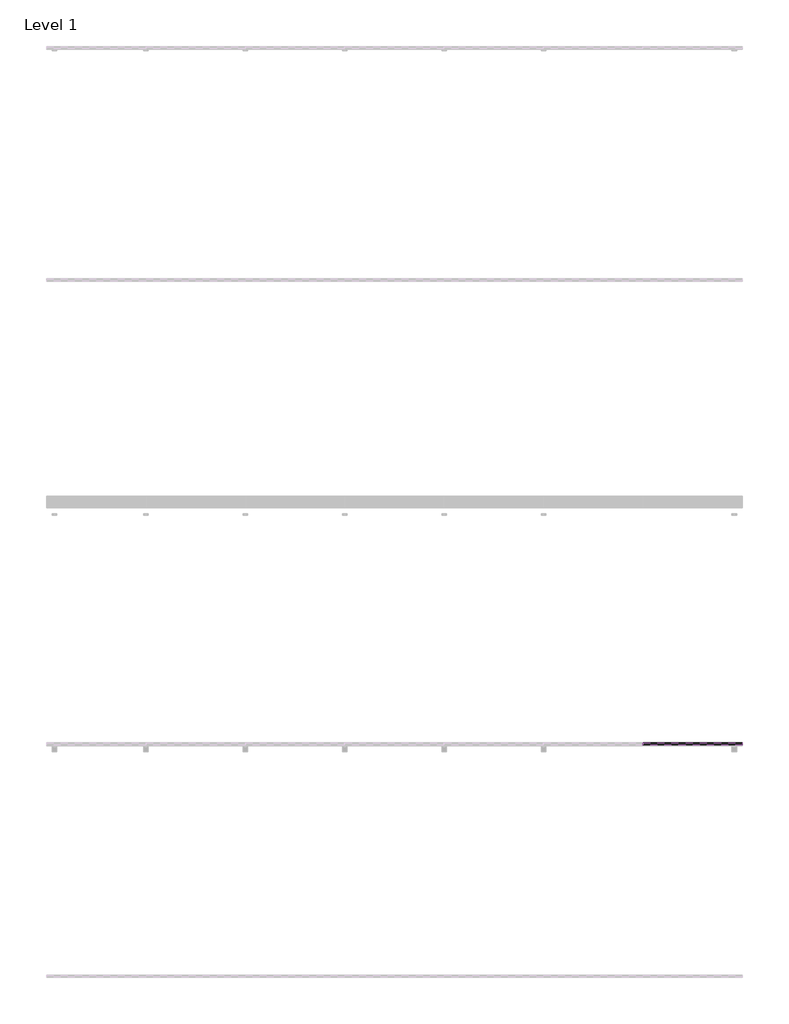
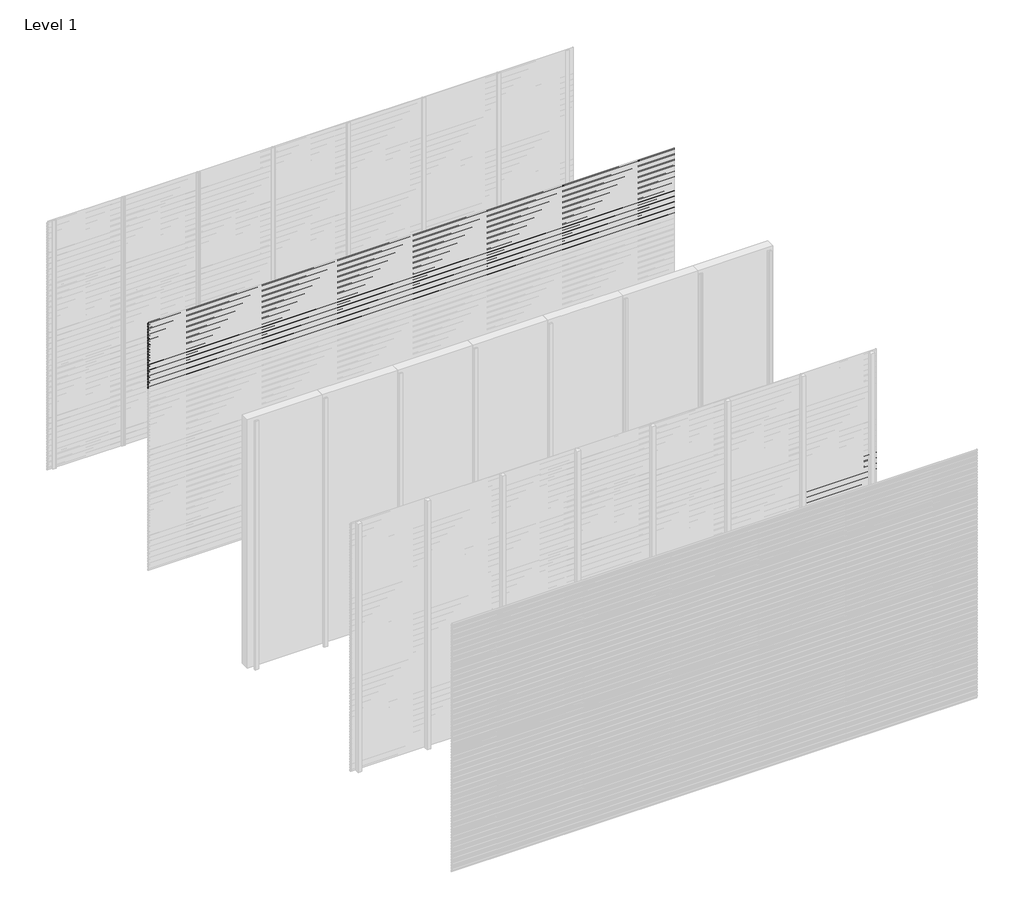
# One storey, part 50 of 96: 77 proxies.
"""IFC4 building model written with IfcOpenShell, lengths in millimetres."""

from ifc_helpers import new_model, si_unit, frame, origin, place, context, project, spatial, polyline, outline, extrude, element, save

model = new_model("IFC4")

# Units and contexts
model_context = context("Model", 3, world=origin())
ifc_project = project(units=[si_unit("LENGTHUNIT", "METRE", prefix="MILLI")], contexts=[model_context])

# Site, building, storey
site = spatial("IfcSite", under=ifc_project)
building = spatial("IfcBuilding", under=site)
storey = spatial("IfcBuildingStorey", under=building, Name="Level 1", Elevation=0.0)

# Proxies
placement = place(None, origin())
element("IfcBuildingElementProxy", 1, Name="Wall Sweeps", at=placement, inside=storey, context=model_context, shape_type="SweptSolid", body=[
    extrude(outline(polyline([(-25977.6, 2971.7655033), (-25977.6, 2957.4779188), (-25982.4114965, 2954.7), (-25982.4114965, 2955.9701706), (-25978.85, 2958.0264016), (-25978.85, 2971.0437382), (-25998.0, 2982.1000799), (-25998.0, 2997.0), (-25996.75, 2997.0), (-25996.75, 2982.8217609), (-25977.6, 2971.7655033)])), frame((0.0, 0.0, 0.0), z_axis=(1.0, 0.0, 0.0), x_axis=(0.0, 1.0, 0.0)), (0.0, 0.0, 1.0), 6000.0),
])
element("IfcBuildingElementProxy", 2, Name="Wall Sweeps", at=placement, inside=storey, context=model_context, shape_type="SweptSolid", body=[
    extrude(outline(polyline([(-25977.6, 2938.4655033), (-25977.6, 2924.1779188), (-25982.4114965, 2921.4), (-25982.4114965, 2922.6701706), (-25978.85, 2924.7264016), (-25978.85, 2937.7437382), (-25998.0, 2948.8000799), (-25998.0, 2963.7), (-25996.75, 2963.7), (-25996.75, 2949.5217609), (-25977.6, 2938.4655033)])), frame((0.0, 0.0, 0.0), z_axis=(1.0, 0.0, 0.0), x_axis=(0.0, 1.0, 0.0)), (0.0, 0.0, 1.0), 6000.0),
])
element("IfcBuildingElementProxy", 3, Name="Wall Sweeps", at=placement, inside=storey, context=model_context, shape_type="SweptSolid", body=[
    extrude(outline(polyline([(-25977.6, 2905.1655033), (-25977.6, 2890.8779188), (-25982.4114965, 2888.1), (-25982.4114965, 2889.3701706), (-25978.85, 2891.4264016), (-25978.85, 2904.4437382), (-25998.0, 2915.5000799), (-25998.0, 2930.4), (-25996.75, 2930.4), (-25996.75, 2916.2217609), (-25977.6, 2905.1655033)])), frame((0.0, 0.0, 0.0), z_axis=(1.0, 0.0, 0.0), x_axis=(0.0, 1.0, 0.0)), (0.0, 0.0, 1.0), 6000.0),
])
element("IfcBuildingElementProxy", 4, Name="Wall Sweeps", at=placement, inside=storey, context=model_context, shape_type="SweptSolid", body=[
    extrude(outline(polyline([(-25977.6, 2871.8655033), (-25977.6, 2857.5779188), (-25982.4114965, 2854.8), (-25982.4114965, 2856.0701706), (-25978.85, 2858.1264016), (-25978.85, 2871.1437382), (-25998.0, 2882.2000799), (-25998.0, 2897.1), (-25996.75, 2897.1), (-25996.75, 2882.9217609), (-25977.6, 2871.8655033)])), frame((0.0, 0.0, 0.0), z_axis=(1.0, 0.0, 0.0), x_axis=(0.0, 1.0, 0.0)), (0.0, 0.0, 1.0), 6000.0),
])
element("IfcBuildingElementProxy", 5, Name="Wall Sweeps", at=placement, inside=storey, context=model_context, shape_type="SweptSolid", body=[
    extrude(outline(polyline([(-25977.6, 2838.5655033), (-25977.6, 2824.2779188), (-25982.4114965, 2821.5), (-25982.4114965, 2822.7701706), (-25978.85, 2824.8264016), (-25978.85, 2837.8437382), (-25998.0, 2848.9000799), (-25998.0, 2863.8), (-25996.75, 2863.8), (-25996.75, 2849.6217609), (-25977.6, 2838.5655033)])), frame((0.0, 0.0, 0.0), z_axis=(1.0, 0.0, 0.0), x_axis=(0.0, 1.0, 0.0)), (0.0, 0.0, 1.0), 6000.0),
])
element("IfcBuildingElementProxy", 6, Name="Wall Sweeps", at=placement, inside=storey, context=model_context, shape_type="SweptSolid", body=[
    extrude(outline(polyline([(-25977.6, 2805.2655033), (-25977.6, 2790.9779188), (-25982.4114965, 2788.2), (-25982.4114965, 2789.4701706), (-25978.85, 2791.5264016), (-25978.85, 2804.5437382), (-25998.0, 2815.6000799), (-25998.0, 2830.5), (-25996.75, 2830.5), (-25996.75, 2816.3217609), (-25977.6, 2805.2655033)])), frame((0.0, 0.0, 0.0), z_axis=(1.0, 0.0, 0.0), x_axis=(0.0, 1.0, 0.0)), (0.0, 0.0, 1.0), 6000.0),
])
element("IfcBuildingElementProxy", 7, Name="Wall Sweeps", at=placement, inside=storey, context=model_context, shape_type="SweptSolid", body=[
    extrude(outline(polyline([(-25977.6, 2771.9655033), (-25977.6, 2757.6779188), (-25982.4114965, 2754.9), (-25982.4114965, 2756.1701706), (-25978.85, 2758.2264016), (-25978.85, 2771.2437382), (-25998.0, 2782.3000799), (-25998.0, 2797.2), (-25996.75, 2797.2), (-25996.75, 2783.0217609), (-25977.6, 2771.9655033)])), frame((0.0, 0.0, 0.0), z_axis=(1.0, 0.0, 0.0), x_axis=(0.0, 1.0, 0.0)), (0.0, 0.0, 1.0), 6000.0),
])
element("IfcBuildingElementProxy", 8, Name="Wall Sweeps", at=placement, inside=storey, context=model_context, shape_type="SweptSolid", body=[
    extrude(outline(polyline([(-25977.6, 2738.6655033), (-25977.6, 2724.3779188), (-25982.4114965, 2721.6), (-25982.4114965, 2722.8701706), (-25978.85, 2724.9264016), (-25978.85, 2737.9437382), (-25998.0, 2749.0000799), (-25998.0, 2763.9), (-25996.75, 2763.9), (-25996.75, 2749.7217609), (-25977.6, 2738.6655033)])), frame((0.0, 0.0, 0.0), z_axis=(1.0, 0.0, 0.0), x_axis=(0.0, 1.0, 0.0)), (0.0, 0.0, 1.0), 6000.0),
])
element("IfcBuildingElementProxy", 9, Name="Wall Sweeps", at=placement, inside=storey, context=model_context, shape_type="SweptSolid", body=[
    extrude(outline(polyline([(-25977.6, 2705.3655033), (-25977.6, 2691.0779188), (-25982.4114965, 2688.3), (-25982.4114965, 2689.5701706), (-25978.85, 2691.6264016), (-25978.85, 2704.6437382), (-25998.0, 2715.7000799), (-25998.0, 2730.6), (-25996.75, 2730.6), (-25996.75, 2716.4217609), (-25977.6, 2705.3655033)])), frame((0.0, 0.0, 0.0), z_axis=(1.0, 0.0, 0.0), x_axis=(0.0, 1.0, 0.0)), (0.0, 0.0, 1.0), 6000.0),
])
element("IfcBuildingElementProxy", 10, Name="Wall Sweeps", at=placement, inside=storey, context=model_context, shape_type="SweptSolid", body=[
    extrude(outline(polyline([(-25977.6, 2672.0655033), (-25977.6, 2657.7779188), (-25982.4114965, 2655.0), (-25982.4114965, 2656.2701706), (-25978.85, 2658.3264016), (-25978.85, 2671.3437382), (-25998.0, 2682.4000799), (-25998.0, 2697.3), (-25996.75, 2697.3), (-25996.75, 2683.1217609), (-25977.6, 2672.0655033)])), frame((0.0, 0.0, 0.0), z_axis=(1.0, 0.0, 0.0), x_axis=(0.0, 1.0, 0.0)), (0.0, 0.0, 1.0), 6000.0),
])
element("IfcBuildingElementProxy", 11, Name="Wall Sweeps", at=placement, inside=storey, context=model_context, shape_type="SweptSolid", body=[
    extrude(outline(polyline([(-25977.6, 2638.7655033), (-25977.6, 2624.4779188), (-25982.4114965, 2621.7), (-25982.4114965, 2622.9701706), (-25978.85, 2625.0264016), (-25978.85, 2638.0437382), (-25998.0, 2649.1000799), (-25998.0, 2664.0), (-25996.75, 2664.0), (-25996.75, 2649.8217609), (-25977.6, 2638.7655033)])), frame((0.0, 0.0, 0.0), z_axis=(1.0, 0.0, 0.0), x_axis=(0.0, 1.0, 0.0)), (0.0, 0.0, 1.0), 6000.0),
])
element("IfcBuildingElementProxy", 12, Name="Wall Sweeps", at=placement, inside=storey, context=model_context, shape_type="SweptSolid", body=[
    extrude(outline(polyline([(-25977.6, 2605.4655033), (-25977.6, 2591.1779188), (-25982.4114965, 2588.4), (-25982.4114965, 2589.6701706), (-25978.85, 2591.7264016), (-25978.85, 2604.7437382), (-25998.0, 2615.8000799), (-25998.0, 2630.7), (-25996.75, 2630.7), (-25996.75, 2616.5217609), (-25977.6, 2605.4655033)])), frame((0.0, 0.0, 0.0), z_axis=(1.0, 0.0, 0.0), x_axis=(0.0, 1.0, 0.0)), (0.0, 0.0, 1.0), 6000.0),
])
element("IfcBuildingElementProxy", 13, Name="Wall Sweeps", at=placement, inside=storey, context=model_context, shape_type="SweptSolid", body=[
    extrude(outline(polyline([(-25977.6, 2572.1655033), (-25977.6, 2557.8779188), (-25982.4114965, 2555.1), (-25982.4114965, 2556.3701706), (-25978.85, 2558.4264016), (-25978.85, 2571.4437382), (-25998.0, 2582.5000799), (-25998.0, 2597.4), (-25996.75, 2597.4), (-25996.75, 2583.2217609), (-25977.6, 2572.1655033)])), frame((0.0, 0.0, 0.0), z_axis=(1.0, 0.0, 0.0), x_axis=(0.0, 1.0, 0.0)), (0.0, 0.0, 1.0), 6000.0),
])
element("IfcBuildingElementProxy", 14, Name="Wall Sweeps", at=placement, inside=storey, context=model_context, shape_type="SweptSolid", body=[
    extrude(outline(polyline([(-25977.6, 2538.8655033), (-25977.6, 2524.5779188), (-25982.4114965, 2521.8), (-25982.4114965, 2523.0701706), (-25978.85, 2525.1264016), (-25978.85, 2538.1437382), (-25998.0, 2549.2000799), (-25998.0, 2564.1), (-25996.75, 2564.1), (-25996.75, 2549.9217609), (-25977.6, 2538.8655033)])), frame((0.0, 0.0, 0.0), z_axis=(1.0, 0.0, 0.0), x_axis=(0.0, 1.0, 0.0)), (0.0, 0.0, 1.0), 6000.0),
])
element("IfcBuildingElementProxy", 15, Name="Wall Sweeps", at=placement, inside=storey, context=model_context, shape_type="SweptSolid", body=[
    extrude(outline(polyline([(-25977.6, 2505.5655033), (-25977.6, 2491.2779188), (-25982.4114965, 2488.5), (-25982.4114965, 2489.7701706), (-25978.85, 2491.8264016), (-25978.85, 2504.8437382), (-25998.0, 2515.9000799), (-25998.0, 2530.8), (-25996.75, 2530.8), (-25996.75, 2516.6217609), (-25977.6, 2505.5655033)])), frame((0.0, 0.0, 0.0), z_axis=(1.0, 0.0, 0.0), x_axis=(0.0, 1.0, 0.0)), (0.0, 0.0, 1.0), 6000.0),
])
element("IfcBuildingElementProxy", 16, Name="Wall Sweeps", at=placement, inside=storey, context=model_context, shape_type="SweptSolid", body=[
    extrude(outline(polyline([(-25977.6, 2472.2655033), (-25977.6, 2457.9779188), (-25982.4114965, 2455.2), (-25982.4114965, 2456.4701706), (-25978.85, 2458.5264016), (-25978.85, 2471.5437382), (-25998.0, 2482.6000799), (-25998.0, 2497.5), (-25996.75, 2497.5), (-25996.75, 2483.3217609), (-25977.6, 2472.2655033)])), frame((0.0, 0.0, 0.0), z_axis=(1.0, 0.0, 0.0), x_axis=(0.0, 1.0, 0.0)), (0.0, 0.0, 1.0), 6000.0),
])
element("IfcBuildingElementProxy", 17, Name="Wall Sweeps", at=placement, inside=storey, context=model_context, shape_type="SweptSolid", body=[
    extrude(outline(polyline([(-25977.6, 2438.9655033), (-25977.6, 2424.6779188), (-25982.4114965, 2421.9), (-25982.4114965, 2423.1701706), (-25978.85, 2425.2264016), (-25978.85, 2438.2437382), (-25998.0, 2449.3000799), (-25998.0, 2464.2), (-25996.75, 2464.2), (-25996.75, 2450.0217609), (-25977.6, 2438.9655033)])), frame((0.0, 0.0, 0.0), z_axis=(1.0, 0.0, 0.0), x_axis=(0.0, 1.0, 0.0)), (0.0, 0.0, 1.0), 6000.0),
])
element("IfcBuildingElementProxy", 18, Name="Wall Sweeps", at=placement, inside=storey, context=model_context, shape_type="SweptSolid", body=[
    extrude(outline(polyline([(-25977.6, 2405.6655033), (-25977.6, 2391.3779188), (-25982.4114965, 2388.6), (-25982.4114965, 2389.8701706), (-25978.85, 2391.9264016), (-25978.85, 2404.9437382), (-25998.0, 2416.0000799), (-25998.0, 2430.9), (-25996.75, 2430.9), (-25996.75, 2416.7217609), (-25977.6, 2405.6655033)])), frame((0.0, 0.0, 0.0), z_axis=(1.0, 0.0, 0.0), x_axis=(0.0, 1.0, 0.0)), (0.0, 0.0, 1.0), 6000.0),
])
element("IfcBuildingElementProxy", 19, Name="Wall Sweeps", at=placement, inside=storey, context=model_context, shape_type="SweptSolid", body=[
    extrude(outline(polyline([(-25977.6, 2372.3655033), (-25977.6, 2358.0779188), (-25982.4114965, 2355.3), (-25982.4114965, 2356.5701706), (-25978.85, 2358.6264016), (-25978.85, 2371.6437382), (-25998.0, 2382.7000799), (-25998.0, 2397.6), (-25996.75, 2397.6), (-25996.75, 2383.4217609), (-25977.6, 2372.3655033)])), frame((0.0, 0.0, 0.0), z_axis=(1.0, 0.0, 0.0), x_axis=(0.0, 1.0, 0.0)), (0.0, 0.0, 1.0), 6000.0),
])
element("IfcBuildingElementProxy", 20, Name="Wall Sweeps", at=placement, inside=storey, context=model_context, shape_type="SweptSolid", body=[
    extrude(outline(polyline([(-25977.6, 2339.0655033), (-25977.6, 2324.7779188), (-25982.4114965, 2322.0), (-25982.4114965, 2323.2701706), (-25978.85, 2325.3264016), (-25978.85, 2338.3437382), (-25998.0, 2349.4000799), (-25998.0, 2364.3), (-25996.75, 2364.3), (-25996.75, 2350.1217609), (-25977.6, 2339.0655033)])), frame((0.0, 0.0, 0.0), z_axis=(1.0, 0.0, 0.0), x_axis=(0.0, 1.0, 0.0)), (0.0, 0.0, 1.0), 6000.0),
])
element("IfcBuildingElementProxy", 21, Name="Wall Sweeps", at=placement, inside=storey, context=model_context, shape_type="SweptSolid", body=[
    extrude(outline(polyline([(-25977.6, 2305.7655033), (-25977.6, 2291.4779188), (-25982.4114965, 2288.7), (-25982.4114965, 2289.9701706), (-25978.85, 2292.0264016), (-25978.85, 2305.0437382), (-25998.0, 2316.1000799), (-25998.0, 2331.0), (-25996.75, 2331.0), (-25996.75, 2316.8217609), (-25977.6, 2305.7655033)])), frame((0.0, 0.0, 0.0), z_axis=(1.0, 0.0, 0.0), x_axis=(0.0, 1.0, 0.0)), (0.0, 0.0, 1.0), 6000.0),
])
element("IfcBuildingElementProxy", 22, Name="Wall Sweeps", at=placement, inside=storey, context=model_context, shape_type="SweptSolid", body=[
    extrude(outline(polyline([(-25977.6, 2272.4655033), (-25977.6, 2258.1779188), (-25982.4114965, 2255.4), (-25982.4114965, 2256.6701706), (-25978.85, 2258.7264016), (-25978.85, 2271.7437382), (-25998.0, 2282.8000799), (-25998.0, 2297.7), (-25996.75, 2297.7), (-25996.75, 2283.5217609), (-25977.6, 2272.4655033)])), frame((0.0, 0.0, 0.0), z_axis=(1.0, 0.0, 0.0), x_axis=(0.0, 1.0, 0.0)), (0.0, 0.0, 1.0), 6000.0),
])
element("IfcBuildingElementProxy", 23, Name="Wall Sweeps", at=placement, inside=storey, context=model_context, shape_type="SweptSolid", body=[
    extrude(outline(polyline([(-25977.6, 2239.1655033), (-25977.6, 2224.8779188), (-25982.4114965, 2222.1), (-25982.4114965, 2223.3701706), (-25978.85, 2225.4264016), (-25978.85, 2238.4437382), (-25998.0, 2249.5000799), (-25998.0, 2264.4), (-25996.75, 2264.4), (-25996.75, 2250.2217609), (-25977.6, 2239.1655033)])), frame((0.0, 0.0, 0.0), z_axis=(1.0, 0.0, 0.0), x_axis=(0.0, 1.0, 0.0)), (0.0, 0.0, 1.0), 6000.0),
])
element("IfcBuildingElementProxy", 24, Name="Wall Sweeps", at=placement, inside=storey, context=model_context, shape_type="SweptSolid", body=[
    extrude(outline(polyline([(-25977.6, 2205.8655033), (-25977.6, 2191.5779188), (-25982.4114965, 2188.8), (-25982.4114965, 2190.0701706), (-25978.85, 2192.1264016), (-25978.85, 2205.1437382), (-25998.0, 2216.2000799), (-25998.0, 2231.1), (-25996.75, 2231.1), (-25996.75, 2216.9217609), (-25977.6, 2205.8655033)])), frame((0.0, 0.0, 0.0), z_axis=(1.0, 0.0, 0.0), x_axis=(0.0, 1.0, 0.0)), (0.0, 0.0, 1.0), 6000.0),
])
element("IfcBuildingElementProxy", 25, Name="Wall Sweeps", at=placement, inside=storey, context=model_context, shape_type="SweptSolid", body=[
    extrude(outline(polyline([(-29977.6, 1739.6655033), (-29977.6, 1725.3779188), (-29982.4114965, 1722.6), (-29982.4114965, 1723.8701706), (-29978.85, 1725.9264016), (-29978.85, 1738.9437382), (-29998.0, 1750.0000799), (-29998.0, 1764.9), (-29996.75, 1764.9), (-29996.75, 1750.7217609), (-29977.6, 1739.6655033)])), frame((5142.8571429, 0.0, 0.0), z_axis=(1.0, 0.0, 0.0), x_axis=(0.0, 1.0, 0.0)), (0.0, 0.0, 1.0), 857.1428571),
])
element("IfcBuildingElementProxy", 26, Name="Wall Sweeps", at=placement, inside=storey, context=model_context, shape_type="SweptSolid", body=[
    extrude(outline(polyline([(-29977.6, 1706.3655033), (-29977.6, 1692.0779188), (-29982.4114965, 1689.3), (-29982.4114965, 1690.5701706), (-29978.85, 1692.6264016), (-29978.85, 1705.6437382), (-29998.0, 1716.7000799), (-29998.0, 1731.6), (-29996.75, 1731.6), (-29996.75, 1717.4217609), (-29977.6, 1706.3655033)])), frame((5142.8571429, 0.0, 0.0), z_axis=(1.0, 0.0, 0.0), x_axis=(0.0, 1.0, 0.0)), (0.0, 0.0, 1.0), 857.1428571),
])
element("IfcBuildingElementProxy", 27, Name="Wall Sweeps", at=placement, inside=storey, context=model_context, shape_type="SweptSolid", body=[
    extrude(outline(polyline([(-29977.6, 1673.0655033), (-29977.6, 1658.7779188), (-29982.4114965, 1656.0), (-29982.4114965, 1657.2701706), (-29978.85, 1659.3264016), (-29978.85, 1672.3437382), (-29998.0, 1683.4000799), (-29998.0, 1698.3), (-29996.75, 1698.3), (-29996.75, 1684.1217609), (-29977.6, 1673.0655033)])), frame((5142.8571429, 0.0, 0.0), z_axis=(1.0, 0.0, 0.0), x_axis=(0.0, 1.0, 0.0)), (0.0, 0.0, 1.0), 857.1428571),
])
element("IfcBuildingElementProxy", 28, Name="Wall Sweeps", at=placement, inside=storey, context=model_context, shape_type="SweptSolid", body=[
    extrude(outline(polyline([(-29977.6, 1639.7655033), (-29977.6, 1625.4779188), (-29982.4114965, 1622.7), (-29982.4114965, 1623.9701706), (-29978.85, 1626.0264016), (-29978.85, 1639.0437382), (-29998.0, 1650.1000799), (-29998.0, 1665.0), (-29996.75, 1665.0), (-29996.75, 1650.8217609), (-29977.6, 1639.7655033)])), frame((5142.8571429, 0.0, 0.0), z_axis=(1.0, 0.0, 0.0), x_axis=(0.0, 1.0, 0.0)), (0.0, 0.0, 1.0), 857.1428571),
])
element("IfcBuildingElementProxy", 29, Name="Wall Sweeps", at=placement, inside=storey, context=model_context, shape_type="SweptSolid", body=[
    extrude(outline(polyline([(-29977.6, 1606.4655033), (-29977.6, 1592.1779188), (-29982.4114965, 1589.4), (-29982.4114965, 1590.6701706), (-29978.85, 1592.7264016), (-29978.85, 1605.7437382), (-29998.0, 1616.8000799), (-29998.0, 1631.7), (-29996.75, 1631.7), (-29996.75, 1617.5217609), (-29977.6, 1606.4655033)])), frame((5142.8571429, 0.0, 0.0), z_axis=(1.0, 0.0, 0.0), x_axis=(0.0, 1.0, 0.0)), (0.0, 0.0, 1.0), 857.1428571),
])
element("IfcBuildingElementProxy", 30, Name="Wall Sweeps", at=placement, inside=storey, context=model_context, shape_type="SweptSolid", body=[
    extrude(outline(polyline([(-29977.6, 1573.1655033), (-29977.6, 1558.8779188), (-29982.4114965, 1556.1), (-29982.4114965, 1557.3701706), (-29978.85, 1559.4264016), (-29978.85, 1572.4437382), (-29998.0, 1583.5000799), (-29998.0, 1598.4), (-29996.75, 1598.4), (-29996.75, 1584.2217609), (-29977.6, 1573.1655033)])), frame((5142.8571429, 0.0, 0.0), z_axis=(1.0, 0.0, 0.0), x_axis=(0.0, 1.0, 0.0)), (0.0, 0.0, 1.0), 857.1428571),
])
element("IfcBuildingElementProxy", 31, Name="Wall Sweeps", at=placement, inside=storey, context=model_context, shape_type="SweptSolid", body=[
    extrude(outline(polyline([(-29977.6, 1539.8655033), (-29977.6, 1525.5779188), (-29982.4114965, 1522.8), (-29982.4114965, 1524.0701706), (-29978.85, 1526.1264016), (-29978.85, 1539.1437382), (-29998.0, 1550.2000799), (-29998.0, 1565.1), (-29996.75, 1565.1), (-29996.75, 1550.9217609), (-29977.6, 1539.8655033)])), frame((5142.8571429, 0.0, 0.0), z_axis=(1.0, 0.0, 0.0), x_axis=(0.0, 1.0, 0.0)), (0.0, 0.0, 1.0), 857.1428571),
])
element("IfcBuildingElementProxy", 32, Name="Wall Sweeps", at=placement, inside=storey, context=model_context, shape_type="SweptSolid", body=[
    extrude(outline(polyline([(-29977.6, 1506.5655033), (-29977.6, 1492.2779188), (-29982.4114965, 1489.5), (-29982.4114965, 1490.7701706), (-29978.85, 1492.8264016), (-29978.85, 1505.8437382), (-29998.0, 1516.9000799), (-29998.0, 1531.8), (-29996.75, 1531.8), (-29996.75, 1517.6217609), (-29977.6, 1506.5655033)])), frame((5142.8571429, 0.0, 0.0), z_axis=(1.0, 0.0, 0.0), x_axis=(0.0, 1.0, 0.0)), (0.0, 0.0, 1.0), 857.1428571),
])
element("IfcBuildingElementProxy", 33, Name="Wall Sweeps", at=placement, inside=storey, context=model_context, shape_type="SweptSolid", body=[
    extrude(outline(polyline([(-29977.6, 1473.2655033), (-29977.6, 1458.9779188), (-29982.4114965, 1456.2), (-29982.4114965, 1457.4701706), (-29978.85, 1459.5264016), (-29978.85, 1472.5437382), (-29998.0, 1483.6000799), (-29998.0, 1498.5), (-29996.75, 1498.5), (-29996.75, 1484.3217609), (-29977.6, 1473.2655033)])), frame((5142.8571429, 0.0, 0.0), z_axis=(1.0, 0.0, 0.0), x_axis=(0.0, 1.0, 0.0)), (0.0, 0.0, 1.0), 857.1428571),
])
element("IfcBuildingElementProxy", 34, Name="Wall Sweeps", at=placement, inside=storey, context=model_context, shape_type="SweptSolid", body=[
    extrude(outline(polyline([(-29977.6, 1439.9655033), (-29977.6, 1425.6779188), (-29982.4114965, 1422.9), (-29982.4114965, 1424.1701706), (-29978.85, 1426.2264016), (-29978.85, 1439.2437382), (-29998.0, 1450.3000799), (-29998.0, 1465.2), (-29996.75, 1465.2), (-29996.75, 1451.0217609), (-29977.6, 1439.9655033)])), frame((5142.8571429, 0.0, 0.0), z_axis=(1.0, 0.0, 0.0), x_axis=(0.0, 1.0, 0.0)), (0.0, 0.0, 1.0), 857.1428571),
])
element("IfcBuildingElementProxy", 35, Name="Wall Sweeps", at=placement, inside=storey, context=model_context, shape_type="SweptSolid", body=[
    extrude(outline(polyline([(-29977.6, 1406.6655033), (-29977.6, 1392.3779188), (-29982.4114965, 1389.6), (-29982.4114965, 1390.8701706), (-29978.85, 1392.9264016), (-29978.85, 1405.9437382), (-29998.0, 1417.0000799), (-29998.0, 1431.9), (-29996.75, 1431.9), (-29996.75, 1417.7217609), (-29977.6, 1406.6655033)])), frame((5142.8571429, 0.0, 0.0), z_axis=(1.0, 0.0, 0.0), x_axis=(0.0, 1.0, 0.0)), (0.0, 0.0, 1.0), 857.1428571),
])
element("IfcBuildingElementProxy", 36, Name="Wall Sweeps", at=placement, inside=storey, context=model_context, shape_type="SweptSolid", body=[
    extrude(outline(polyline([(-29977.6, 1373.3655033), (-29977.6, 1359.0779188), (-29982.4114965, 1356.3), (-29982.4114965, 1357.5701706), (-29978.85, 1359.6264016), (-29978.85, 1372.6437382), (-29998.0, 1383.7000799), (-29998.0, 1398.6), (-29996.75, 1398.6), (-29996.75, 1384.4217609), (-29977.6, 1373.3655033)])), frame((5142.8571429, 0.0, 0.0), z_axis=(1.0, 0.0, 0.0), x_axis=(0.0, 1.0, 0.0)), (0.0, 0.0, 1.0), 857.1428571),
])
element("IfcBuildingElementProxy", 37, Name="Wall Sweeps", at=placement, inside=storey, context=model_context, shape_type="SweptSolid", body=[
    extrude(outline(polyline([(-29977.6, 1340.0655033), (-29977.6, 1325.7779188), (-29982.4114965, 1323.0), (-29982.4114965, 1324.2701706), (-29978.85, 1326.3264016), (-29978.85, 1339.3437382), (-29998.0, 1350.4000799), (-29998.0, 1365.3), (-29996.75, 1365.3), (-29996.75, 1351.1217609), (-29977.6, 1340.0655033)])), frame((5142.8571429, 0.0, 0.0), z_axis=(1.0, 0.0, 0.0), x_axis=(0.0, 1.0, 0.0)), (0.0, 0.0, 1.0), 857.1428571),
])
element("IfcBuildingElementProxy", 38, Name="Wall Sweeps", at=placement, inside=storey, context=model_context, shape_type="SweptSolid", body=[
    extrude(outline(polyline([(-29977.6, 1306.7655033), (-29977.6, 1292.4779188), (-29982.4114965, 1289.7), (-29982.4114965, 1290.9701706), (-29978.85, 1293.0264016), (-29978.85, 1306.0437382), (-29998.0, 1317.1000799), (-29998.0, 1332.0), (-29996.75, 1332.0), (-29996.75, 1317.8217609), (-29977.6, 1306.7655033)])), frame((5142.8571429, 0.0, 0.0), z_axis=(1.0, 0.0, 0.0), x_axis=(0.0, 1.0, 0.0)), (0.0, 0.0, 1.0), 857.1428571),
])
element("IfcBuildingElementProxy", 39, Name="Wall Sweeps", at=placement, inside=storey, context=model_context, shape_type="SweptSolid", body=[
    extrude(outline(polyline([(-29977.6, 1273.4655033), (-29977.6, 1259.1779188), (-29982.4114965, 1256.4), (-29982.4114965, 1257.6701706), (-29978.85, 1259.7264016), (-29978.85, 1272.7437382), (-29998.0, 1283.8000799), (-29998.0, 1298.7), (-29996.75, 1298.7), (-29996.75, 1284.5217609), (-29977.6, 1273.4655033)])), frame((5142.8571429, 0.0, 0.0), z_axis=(1.0, 0.0, 0.0), x_axis=(0.0, 1.0, 0.0)), (0.0, 0.0, 1.0), 857.1428571),
])
element("IfcBuildingElementProxy", 40, Name="Wall Sweeps", at=placement, inside=storey, context=model_context, shape_type="SweptSolid", body=[
    extrude(outline(polyline([(-29977.6, 1240.1655033), (-29977.6, 1225.8779188), (-29982.4114965, 1223.1), (-29982.4114965, 1224.3701706), (-29978.85, 1226.4264016), (-29978.85, 1239.4437382), (-29998.0, 1250.5000799), (-29998.0, 1265.4), (-29996.75, 1265.4), (-29996.75, 1251.2217609), (-29977.6, 1240.1655033)])), frame((5142.8571429, 0.0, 0.0), z_axis=(1.0, 0.0, 0.0), x_axis=(0.0, 1.0, 0.0)), (0.0, 0.0, 1.0), 857.1428571),
])
element("IfcBuildingElementProxy", 41, Name="Wall Sweeps", at=placement, inside=storey, context=model_context, shape_type="SweptSolid", body=[
    extrude(outline(polyline([(-29977.6, 1206.8655033), (-29977.6, 1192.5779188), (-29982.4114965, 1189.8), (-29982.4114965, 1191.0701706), (-29978.85, 1193.1264016), (-29978.85, 1206.1437382), (-29998.0, 1217.2000799), (-29998.0, 1232.1), (-29996.75, 1232.1), (-29996.75, 1217.9217609), (-29977.6, 1206.8655033)])), frame((5142.8571429, 0.0, 0.0), z_axis=(1.0, 0.0, 0.0), x_axis=(0.0, 1.0, 0.0)), (0.0, 0.0, 1.0), 857.1428571),
])
element("IfcBuildingElementProxy", 42, Name="Wall Sweeps", at=placement, inside=storey, context=model_context, shape_type="SweptSolid", body=[
    extrude(outline(polyline([(-29977.6, 1173.5655033), (-29977.6, 1159.2779188), (-29982.4114965, 1156.5), (-29982.4114965, 1157.7701706), (-29978.85, 1159.8264016), (-29978.85, 1172.8437382), (-29998.0, 1183.9000799), (-29998.0, 1198.8), (-29996.75, 1198.8), (-29996.75, 1184.6217609), (-29977.6, 1173.5655033)])), frame((5142.8571429, 0.0, 0.0), z_axis=(1.0, 0.0, 0.0), x_axis=(0.0, 1.0, 0.0)), (0.0, 0.0, 1.0), 857.1428571),
])
element("IfcBuildingElementProxy", 43, Name="Wall Sweeps", at=placement, inside=storey, context=model_context, shape_type="SweptSolid", body=[
    extrude(outline(polyline([(-29977.6, 1140.2655033), (-29977.6, 1125.9779188), (-29982.4114965, 1123.2), (-29982.4114965, 1124.4701706), (-29978.85, 1126.5264016), (-29978.85, 1139.5437382), (-29998.0, 1150.6000799), (-29998.0, 1165.5), (-29996.75, 1165.5), (-29996.75, 1151.3217609), (-29977.6, 1140.2655033)])), frame((5142.8571429, 0.0, 0.0), z_axis=(1.0, 0.0, 0.0), x_axis=(0.0, 1.0, 0.0)), (0.0, 0.0, 1.0), 857.1428571),
])
element("IfcBuildingElementProxy", 44, Name="Wall Sweeps", at=placement, inside=storey, context=model_context, shape_type="SweptSolid", body=[
    extrude(outline(polyline([(-29977.6, 1106.9655033), (-29977.6, 1092.6779188), (-29982.4114965, 1089.9), (-29982.4114965, 1091.1701706), (-29978.85, 1093.2264016), (-29978.85, 1106.2437382), (-29998.0, 1117.3000799), (-29998.0, 1132.2), (-29996.75, 1132.2), (-29996.75, 1118.0217609), (-29977.6, 1106.9655033)])), frame((5142.8571429, 0.0, 0.0), z_axis=(1.0, 0.0, 0.0), x_axis=(0.0, 1.0, 0.0)), (0.0, 0.0, 1.0), 857.1428571),
])
element("IfcBuildingElementProxy", 45, Name="Wall Sweeps", at=placement, inside=storey, context=model_context, shape_type="SweptSolid", body=[
    extrude(outline(polyline([(-29977.6, 1073.6655033), (-29977.6, 1059.3779188), (-29982.4114965, 1056.6), (-29982.4114965, 1057.8701706), (-29978.85, 1059.9264016), (-29978.85, 1072.9437382), (-29998.0, 1084.0000799), (-29998.0, 1098.9), (-29996.75, 1098.9), (-29996.75, 1084.7217609), (-29977.6, 1073.6655033)])), frame((5142.8571429, 0.0, 0.0), z_axis=(1.0, 0.0, 0.0), x_axis=(0.0, 1.0, 0.0)), (0.0, 0.0, 1.0), 857.1428571),
])
element("IfcBuildingElementProxy", 46, Name="Wall Sweeps", at=placement, inside=storey, context=model_context, shape_type="SweptSolid", body=[
    extrude(outline(polyline([(-29977.6, 1040.3655033), (-29977.6, 1026.0779188), (-29982.4114965, 1023.3), (-29982.4114965, 1024.5701706), (-29978.85, 1026.6264016), (-29978.85, 1039.6437382), (-29998.0, 1050.7000799), (-29998.0, 1065.6), (-29996.75, 1065.6), (-29996.75, 1051.4217609), (-29977.6, 1040.3655033)])), frame((5142.8571429, 0.0, 0.0), z_axis=(1.0, 0.0, 0.0), x_axis=(0.0, 1.0, 0.0)), (0.0, 0.0, 1.0), 857.1428571),
])
element("IfcBuildingElementProxy", 47, Name="Wall Sweeps", at=placement, inside=storey, context=model_context, shape_type="SweptSolid", body=[
    extrude(outline(polyline([(-29977.6, 1007.0655033), (-29977.6, 992.7779188), (-29982.4114965, 990.0), (-29982.4114965, 991.2701706), (-29978.85, 993.3264016), (-29978.85, 1006.3437382), (-29998.0, 1017.4000799), (-29998.0, 1032.3), (-29996.75, 1032.3), (-29996.75, 1018.1217609), (-29977.6, 1007.0655033)])), frame((5142.8571429, 0.0, 0.0), z_axis=(1.0, 0.0, 0.0), x_axis=(0.0, 1.0, 0.0)), (0.0, 0.0, 1.0), 857.1428571),
])
element("IfcBuildingElementProxy", 48, Name="Wall Sweeps", at=placement, inside=storey, context=model_context, shape_type="SweptSolid", body=[
    extrude(outline(polyline([(-29977.6, 973.7655033), (-29977.6, 959.4779188), (-29982.4114965, 956.7), (-29982.4114965, 957.9701706), (-29978.85, 960.0264016), (-29978.85, 973.0437382), (-29998.0, 984.1000799), (-29998.0, 999.0), (-29996.75, 999.0), (-29996.75, 984.8217609), (-29977.6, 973.7655033)])), frame((5142.8571429, 0.0, 0.0), z_axis=(1.0, 0.0, 0.0), x_axis=(0.0, 1.0, 0.0)), (0.0, 0.0, 1.0), 857.1428571),
])
element("IfcBuildingElementProxy", 49, Name="Wall Sweeps", at=placement, inside=storey, context=model_context, shape_type="SweptSolid", body=[
    extrude(outline(polyline([(-29977.6, 940.4655033), (-29977.6, 926.1779188), (-29982.4114965, 923.4), (-29982.4114965, 924.6701706), (-29978.85, 926.7264016), (-29978.85, 939.7437382), (-29998.0, 950.8000799), (-29998.0, 965.7), (-29996.75, 965.7), (-29996.75, 951.5217609), (-29977.6, 940.4655033)])), frame((5142.8571429, 0.0, 0.0), z_axis=(1.0, 0.0, 0.0), x_axis=(0.0, 1.0, 0.0)), (0.0, 0.0, 1.0), 857.1428571),
])
element("IfcBuildingElementProxy", 50, Name="Wall Sweeps", at=placement, inside=storey, context=model_context, shape_type="SweptSolid", body=[
    extrude(outline(polyline([(-29977.6, 907.1655033), (-29977.6, 892.8779188), (-29982.4114965, 890.1), (-29982.4114965, 891.3701706), (-29978.85, 893.4264016), (-29978.85, 906.4437382), (-29998.0, 917.5000799), (-29998.0, 932.4), (-29996.75, 932.4), (-29996.75, 918.2217609), (-29977.6, 907.1655033)])), frame((5142.8571429, 0.0, 0.0), z_axis=(1.0, 0.0, 0.0), x_axis=(0.0, 1.0, 0.0)), (0.0, 0.0, 1.0), 857.1428571),
])
element("IfcBuildingElementProxy", 51, Name="Wall Sweeps", at=placement, inside=storey, context=model_context, shape_type="SweptSolid", body=[
    extrude(outline(polyline([(-29977.6, 873.8655033), (-29977.6, 859.5779188), (-29982.4114965, 856.8), (-29982.4114965, 858.0701706), (-29978.85, 860.1264016), (-29978.85, 873.1437382), (-29998.0, 884.2000799), (-29998.0, 899.1), (-29996.75, 899.1), (-29996.75, 884.9217609), (-29977.6, 873.8655033)])), frame((5142.8571429, 0.0, 0.0), z_axis=(1.0, 0.0, 0.0), x_axis=(0.0, 1.0, 0.0)), (0.0, 0.0, 1.0), 857.1428571),
])
element("IfcBuildingElementProxy", 52, Name="Wall Sweeps", at=placement, inside=storey, context=model_context, shape_type="SweptSolid", body=[
    extrude(outline(polyline([(-29977.6, 840.5655033), (-29977.6, 826.2779188), (-29982.4114965, 823.5), (-29982.4114965, 824.7701706), (-29978.85, 826.8264016), (-29978.85, 839.8437382), (-29998.0, 850.9000799), (-29998.0, 865.8), (-29996.75, 865.8), (-29996.75, 851.6217609), (-29977.6, 840.5655033)])), frame((5142.8571429, 0.0, 0.0), z_axis=(1.0, 0.0, 0.0), x_axis=(0.0, 1.0, 0.0)), (0.0, 0.0, 1.0), 857.1428571),
])
element("IfcBuildingElementProxy", 53, Name="Wall Sweeps", at=placement, inside=storey, context=model_context, shape_type="SweptSolid", body=[
    extrude(outline(polyline([(-29977.6, 807.2655033), (-29977.6, 792.9779188), (-29982.4114965, 790.2), (-29982.4114965, 791.4701706), (-29978.85, 793.5264016), (-29978.85, 806.5437382), (-29998.0, 817.6000799), (-29998.0, 832.5), (-29996.75, 832.5), (-29996.75, 818.3217609), (-29977.6, 807.2655033)])), frame((5142.8571429, 0.0, 0.0), z_axis=(1.0, 0.0, 0.0), x_axis=(0.0, 1.0, 0.0)), (0.0, 0.0, 1.0), 857.1428571),
])
element("IfcBuildingElementProxy", 54, Name="Wall Sweeps", at=placement, inside=storey, context=model_context, shape_type="SweptSolid", body=[
    extrude(outline(polyline([(-29977.6, 773.9655033), (-29977.6, 759.6779188), (-29982.4114965, 756.9), (-29982.4114965, 758.1701706), (-29978.85, 760.2264016), (-29978.85, 773.2437382), (-29998.0, 784.3000799), (-29998.0, 799.2), (-29996.75, 799.2), (-29996.75, 785.0217609), (-29977.6, 773.9655033)])), frame((5142.8571429, 0.0, 0.0), z_axis=(1.0, 0.0, 0.0), x_axis=(0.0, 1.0, 0.0)), (0.0, 0.0, 1.0), 857.1428571),
])
element("IfcBuildingElementProxy", 55, Name="Wall Sweeps", at=placement, inside=storey, context=model_context, shape_type="SweptSolid", body=[
    extrude(outline(polyline([(-29977.6, 740.6655033), (-29977.6, 726.3779188), (-29982.4114965, 723.6), (-29982.4114965, 724.8701706), (-29978.85, 726.9264016), (-29978.85, 739.9437382), (-29998.0, 751.0000799), (-29998.0, 765.9), (-29996.75, 765.9), (-29996.75, 751.7217609), (-29977.6, 740.6655033)])), frame((5142.8571429, 0.0, 0.0), z_axis=(1.0, 0.0, 0.0), x_axis=(0.0, 1.0, 0.0)), (0.0, 0.0, 1.0), 857.1428571),
])
element("IfcBuildingElementProxy", 56, Name="Wall Sweeps", at=placement, inside=storey, context=model_context, shape_type="SweptSolid", body=[
    extrude(outline(polyline([(-29977.6, 707.3655033), (-29977.6, 693.0779188), (-29982.4114965, 690.3), (-29982.4114965, 691.5701706), (-29978.85, 693.6264016), (-29978.85, 706.6437382), (-29998.0, 717.7000799), (-29998.0, 732.6), (-29996.75, 732.6), (-29996.75, 718.4217609), (-29977.6, 707.3655033)])), frame((5142.8571429, 0.0, 0.0), z_axis=(1.0, 0.0, 0.0), x_axis=(0.0, 1.0, 0.0)), (0.0, 0.0, 1.0), 857.1428571),
])
element("IfcBuildingElementProxy", 57, Name="Wall Sweeps", at=placement, inside=storey, context=model_context, shape_type="SweptSolid", body=[
    extrude(outline(polyline([(-29977.6, 674.0655033), (-29977.6, 659.7779188), (-29982.4114965, 657.0), (-29982.4114965, 658.2701706), (-29978.85, 660.3264016), (-29978.85, 673.3437382), (-29998.0, 684.4000799), (-29998.0, 699.3), (-29996.75, 699.3), (-29996.75, 685.1217609), (-29977.6, 674.0655033)])), frame((5142.8571429, 0.0, 0.0), z_axis=(1.0, 0.0, 0.0), x_axis=(0.0, 1.0, 0.0)), (0.0, 0.0, 1.0), 857.1428571),
])
element("IfcBuildingElementProxy", 58, Name="Wall Sweeps", at=placement, inside=storey, context=model_context, shape_type="SweptSolid", body=[
    extrude(outline(polyline([(-29977.6, 640.7655033), (-29977.6, 626.4779188), (-29982.4114965, 623.7), (-29982.4114965, 624.9701706), (-29978.85, 627.0264016), (-29978.85, 640.0437382), (-29998.0, 651.1000799), (-29998.0, 666.0), (-29996.75, 666.0), (-29996.75, 651.8217609), (-29977.6, 640.7655033)])), frame((5142.8571429, 0.0, 0.0), z_axis=(1.0, 0.0, 0.0), x_axis=(0.0, 1.0, 0.0)), (0.0, 0.0, 1.0), 857.1428571),
])
element("IfcBuildingElementProxy", 59, Name="Wall Sweeps", at=placement, inside=storey, context=model_context, shape_type="SweptSolid", body=[
    extrude(outline(polyline([(-29977.6, 607.4655033), (-29977.6, 593.1779188), (-29982.4114965, 590.4), (-29982.4114965, 591.6701706), (-29978.85, 593.7264016), (-29978.85, 606.7437382), (-29998.0, 617.8000799), (-29998.0, 632.7), (-29996.75, 632.7), (-29996.75, 618.5217609), (-29977.6, 607.4655033)])), frame((5142.8571429, 0.0, 0.0), z_axis=(1.0, 0.0, 0.0), x_axis=(0.0, 1.0, 0.0)), (0.0, 0.0, 1.0), 857.1428571),
])
element("IfcBuildingElementProxy", 60, Name="Wall Sweeps", at=placement, inside=storey, context=model_context, shape_type="SweptSolid", body=[
    extrude(outline(polyline([(-29977.6, 574.1655033), (-29977.6, 559.8779188), (-29982.4114965, 557.1), (-29982.4114965, 558.3701706), (-29978.85, 560.4264016), (-29978.85, 573.4437382), (-29998.0, 584.5000799), (-29998.0, 599.4), (-29996.75, 599.4), (-29996.75, 585.2217609), (-29977.6, 574.1655033)])), frame((5142.8571429, 0.0, 0.0), z_axis=(1.0, 0.0, 0.0), x_axis=(0.0, 1.0, 0.0)), (0.0, 0.0, 1.0), 857.1428571),
])
element("IfcBuildingElementProxy", 61, Name="Wall Sweeps", at=placement, inside=storey, context=model_context, shape_type="SweptSolid", body=[
    extrude(outline(polyline([(-29977.6, 540.8655033), (-29977.6, 526.5779188), (-29982.4114965, 523.8), (-29982.4114965, 525.0701706), (-29978.85, 527.1264016), (-29978.85, 540.1437382), (-29998.0, 551.2000799), (-29998.0, 566.1), (-29996.75, 566.1), (-29996.75, 551.9217609), (-29977.6, 540.8655033)])), frame((5142.8571429, 0.0, 0.0), z_axis=(1.0, 0.0, 0.0), x_axis=(0.0, 1.0, 0.0)), (0.0, 0.0, 1.0), 857.1428571),
])
element("IfcBuildingElementProxy", 62, Name="Wall Sweeps", at=placement, inside=storey, context=model_context, shape_type="SweptSolid", body=[
    extrude(outline(polyline([(-29977.6, 507.5655033), (-29977.6, 493.2779188), (-29982.4114965, 490.5), (-29982.4114965, 491.7701706), (-29978.85, 493.8264016), (-29978.85, 506.8437382), (-29998.0, 517.9000799), (-29998.0, 532.8), (-29996.75, 532.8), (-29996.75, 518.6217609), (-29977.6, 507.5655033)])), frame((5142.8571429, 0.0, 0.0), z_axis=(1.0, 0.0, 0.0), x_axis=(0.0, 1.0, 0.0)), (0.0, 0.0, 1.0), 857.1428571),
])
element("IfcBuildingElementProxy", 63, Name="Wall Sweeps", at=placement, inside=storey, context=model_context, shape_type="SweptSolid", body=[
    extrude(outline(polyline([(-29977.6, 474.2655033), (-29977.6, 459.9779188), (-29982.4114965, 457.2), (-29982.4114965, 458.4701706), (-29978.85, 460.5264016), (-29978.85, 473.5437382), (-29998.0, 484.6000799), (-29998.0, 499.5), (-29996.75, 499.5), (-29996.75, 485.3217609), (-29977.6, 474.2655033)])), frame((5142.8571429, 0.0, 0.0), z_axis=(1.0, 0.0, 0.0), x_axis=(0.0, 1.0, 0.0)), (0.0, 0.0, 1.0), 857.1428571),
])
element("IfcBuildingElementProxy", 64, Name="Wall Sweeps", at=placement, inside=storey, context=model_context, shape_type="SweptSolid", body=[
    extrude(outline(polyline([(-29977.6, 440.9655033), (-29977.6, 426.6779188), (-29982.4114965, 423.9), (-29982.4114965, 425.1701706), (-29978.85, 427.2264016), (-29978.85, 440.2437382), (-29998.0, 451.3000799), (-29998.0, 466.2), (-29996.75, 466.2), (-29996.75, 452.0217609), (-29977.6, 440.9655033)])), frame((5142.8571429, 0.0, 0.0), z_axis=(1.0, 0.0, 0.0), x_axis=(0.0, 1.0, 0.0)), (0.0, 0.0, 1.0), 857.1428571),
])
element("IfcBuildingElementProxy", 65, Name="Wall Sweeps", at=placement, inside=storey, context=model_context, shape_type="SweptSolid", body=[
    extrude(outline(polyline([(-29977.6, 407.6655033), (-29977.6, 393.3779188), (-29982.4114965, 390.6), (-29982.4114965, 391.8701706), (-29978.85, 393.9264016), (-29978.85, 406.9437382), (-29998.0, 418.0000799), (-29998.0, 432.9), (-29996.75, 432.9), (-29996.75, 418.7217609), (-29977.6, 407.6655033)])), frame((5142.8571429, 0.0, 0.0), z_axis=(1.0, 0.0, 0.0), x_axis=(0.0, 1.0, 0.0)), (0.0, 0.0, 1.0), 857.1428571),
])
element("IfcBuildingElementProxy", 66, Name="Wall Sweeps", at=placement, inside=storey, context=model_context, shape_type="SweptSolid", body=[
    extrude(outline(polyline([(-29977.6, 374.3655033), (-29977.6, 360.0779188), (-29982.4114965, 357.3), (-29982.4114965, 358.5701706), (-29978.85, 360.6264016), (-29978.85, 373.6437382), (-29998.0, 384.7000799), (-29998.0, 399.6), (-29996.75, 399.6), (-29996.75, 385.4217609), (-29977.6, 374.3655033)])), frame((5142.8571429, 0.0, 0.0), z_axis=(1.0, 0.0, 0.0), x_axis=(0.0, 1.0, 0.0)), (0.0, 0.0, 1.0), 857.1428571),
])
element("IfcBuildingElementProxy", 67, Name="Wall Sweeps", at=placement, inside=storey, context=model_context, shape_type="SweptSolid", body=[
    extrude(outline(polyline([(-29977.6, 341.0655033), (-29977.6, 326.7779188), (-29982.4114965, 324.0), (-29982.4114965, 325.2701706), (-29978.85, 327.3264016), (-29978.85, 340.3437382), (-29998.0, 351.4000799), (-29998.0, 366.3), (-29996.75, 366.3), (-29996.75, 352.1217609), (-29977.6, 341.0655033)])), frame((5142.8571429, 0.0, 0.0), z_axis=(1.0, 0.0, 0.0), x_axis=(0.0, 1.0, 0.0)), (0.0, 0.0, 1.0), 857.1428571),
])
element("IfcBuildingElementProxy", 68, Name="Wall Sweeps", at=placement, inside=storey, context=model_context, shape_type="SweptSolid", body=[
    extrude(outline(polyline([(-29977.6, 307.7655033), (-29977.6, 293.4779188), (-29982.4114965, 290.7), (-29982.4114965, 291.9701706), (-29978.85, 294.0264016), (-29978.85, 307.0437382), (-29998.0, 318.1000799), (-29998.0, 333.0), (-29996.75, 333.0), (-29996.75, 318.8217609), (-29977.6, 307.7655033)])), frame((5142.8571429, 0.0, 0.0), z_axis=(1.0, 0.0, 0.0), x_axis=(0.0, 1.0, 0.0)), (0.0, 0.0, 1.0), 857.1428571),
])
element("IfcBuildingElementProxy", 69, Name="Wall Sweeps", at=placement, inside=storey, context=model_context, shape_type="SweptSolid", body=[
    extrude(outline(polyline([(-29977.6, 274.4655033), (-29977.6, 260.1779188), (-29982.4114965, 257.4), (-29982.4114965, 258.6701706), (-29978.85, 260.7264016), (-29978.85, 273.7437382), (-29998.0, 284.8000799), (-29998.0, 299.7), (-29996.75, 299.7), (-29996.75, 285.5217609), (-29977.6, 274.4655033)])), frame((5142.8571429, 0.0, 0.0), z_axis=(1.0, 0.0, 0.0), x_axis=(0.0, 1.0, 0.0)), (0.0, 0.0, 1.0), 857.1428571),
])
element("IfcBuildingElementProxy", 70, Name="Wall Sweeps", at=placement, inside=storey, context=model_context, shape_type="SweptSolid", body=[
    extrude(outline(polyline([(-29977.6, 241.1655033), (-29977.6, 226.8779188), (-29982.4114965, 224.1), (-29982.4114965, 225.3701706), (-29978.85, 227.4264016), (-29978.85, 240.4437382), (-29998.0, 251.5000799), (-29998.0, 266.4), (-29996.75, 266.4), (-29996.75, 252.2217609), (-29977.6, 241.1655033)])), frame((5142.8571429, 0.0, 0.0), z_axis=(1.0, 0.0, 0.0), x_axis=(0.0, 1.0, 0.0)), (0.0, 0.0, 1.0), 857.1428571),
])
element("IfcBuildingElementProxy", 71, Name="Wall Sweeps", at=placement, inside=storey, context=model_context, shape_type="SweptSolid", body=[
    extrude(outline(polyline([(-29977.6, 207.8655033), (-29977.6, 193.5779188), (-29982.4114965, 190.8), (-29982.4114965, 192.0701706), (-29978.85, 194.1264016), (-29978.85, 207.1437382), (-29998.0, 218.2000799), (-29998.0, 233.1), (-29996.75, 233.1), (-29996.75, 218.9217609), (-29977.6, 207.8655033)])), frame((5142.8571429, 0.0, 0.0), z_axis=(1.0, 0.0, 0.0), x_axis=(0.0, 1.0, 0.0)), (0.0, 0.0, 1.0), 857.1428571),
])
element("IfcBuildingElementProxy", 72, Name="Wall Sweeps", at=placement, inside=storey, context=model_context, shape_type="SweptSolid", body=[
    extrude(outline(polyline([(-29977.6, 174.5655033), (-29977.6, 160.2779188), (-29982.4114965, 157.5), (-29982.4114965, 158.7701706), (-29978.85, 160.8264016), (-29978.85, 173.8437382), (-29998.0, 184.9000799), (-29998.0, 199.8), (-29996.75, 199.8), (-29996.75, 185.6217609), (-29977.6, 174.5655033)])), frame((5142.8571429, 0.0, 0.0), z_axis=(1.0, 0.0, 0.0), x_axis=(0.0, 1.0, 0.0)), (0.0, 0.0, 1.0), 857.1428571),
])
element("IfcBuildingElementProxy", 73, Name="Wall Sweeps", at=placement, inside=storey, context=model_context, shape_type="SweptSolid", body=[
    extrude(outline(polyline([(-29977.6, 141.2655033), (-29977.6, 126.9779188), (-29982.4114965, 124.2), (-29982.4114965, 125.4701706), (-29978.85, 127.5264016), (-29978.85, 140.5437382), (-29998.0, 151.6000799), (-29998.0, 166.5), (-29996.75, 166.5), (-29996.75, 152.3217609), (-29977.6, 141.2655033)])), frame((5142.8571429, 0.0, 0.0), z_axis=(1.0, 0.0, 0.0), x_axis=(0.0, 1.0, 0.0)), (0.0, 0.0, 1.0), 857.1428571),
])
element("IfcBuildingElementProxy", 74, Name="Wall Sweeps", at=placement, inside=storey, context=model_context, shape_type="SweptSolid", body=[
    extrude(outline(polyline([(-29977.6, 107.9655033), (-29977.6, 93.6779188), (-29982.4114965, 90.9), (-29982.4114965, 92.1701706), (-29978.85, 94.2264016), (-29978.85, 107.2437382), (-29998.0, 118.3000799), (-29998.0, 133.2), (-29996.75, 133.2), (-29996.75, 119.0217609), (-29977.6, 107.9655033)])), frame((5142.8571429, 0.0, 0.0), z_axis=(1.0, 0.0, 0.0), x_axis=(0.0, 1.0, 0.0)), (0.0, 0.0, 1.0), 857.1428571),
])
element("IfcBuildingElementProxy", 75, Name="Wall Sweeps", at=placement, inside=storey, context=model_context, shape_type="SweptSolid", body=[
    extrude(outline(polyline([(-29977.6, 74.6655033), (-29977.6, 60.3779188), (-29982.4114965, 57.6), (-29982.4114965, 58.8701706), (-29978.85, 60.9264016), (-29978.85, 73.9437382), (-29998.0, 85.0000799), (-29998.0, 99.9), (-29996.75, 99.9), (-29996.75, 85.7217609), (-29977.6, 74.6655033)])), frame((5142.8571429, 0.0, 0.0), z_axis=(1.0, 0.0, 0.0), x_axis=(0.0, 1.0, 0.0)), (0.0, 0.0, 1.0), 857.1428571),
])
element("IfcBuildingElementProxy", 76, Name="Wall Sweeps", at=placement, inside=storey, context=model_context, shape_type="SweptSolid", body=[
    extrude(outline(polyline([(-29977.6, 41.3655033), (-29977.6, 27.0779188), (-29982.4114965, 24.3), (-29982.4114965, 25.5701706), (-29978.85, 27.6264016), (-29978.85, 40.6437382), (-29998.0, 51.7000799), (-29998.0, 66.6), (-29996.75, 66.6), (-29996.75, 52.4217609), (-29977.6, 41.3655033)])), frame((5142.8571429, 0.0, 0.0), z_axis=(1.0, 0.0, 0.0), x_axis=(0.0, 1.0, 0.0)), (0.0, 0.0, 1.0), 857.1428571),
])
element("IfcBuildingElementProxy", 77, Name="Wall Sweeps", at=placement, inside=storey, context=model_context, shape_type="SweptSolid", body=[
    extrude(outline(polyline([(-29977.6, 8.0655033), (-29977.6, -6.2220812), (-29982.4114965, -9.0), (-29982.4114965, -7.7298294), (-29978.85, -5.6735984), (-29978.85, 7.3437382), (-29998.0, 18.4000799), (-29998.0, 33.3), (-29996.75, 33.3), (-29996.75, 19.1217609), (-29977.6, 8.0655033)])), frame((5142.8571429, 0.0, 0.0), z_axis=(1.0, 0.0, 0.0), x_axis=(0.0, 1.0, 0.0)), (0.0, 0.0, 1.0), 857.1428571),
])

save(model, "model.ifc")
